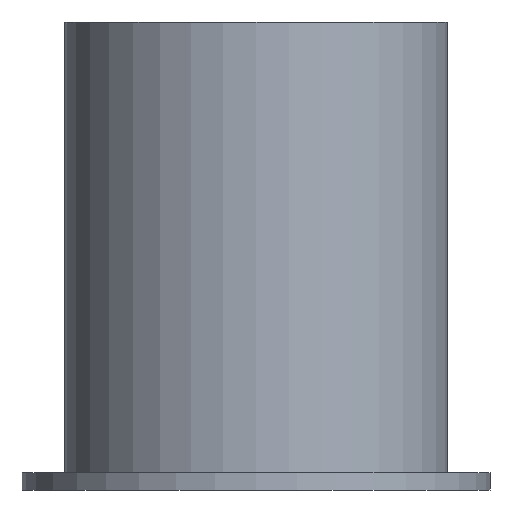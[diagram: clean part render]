
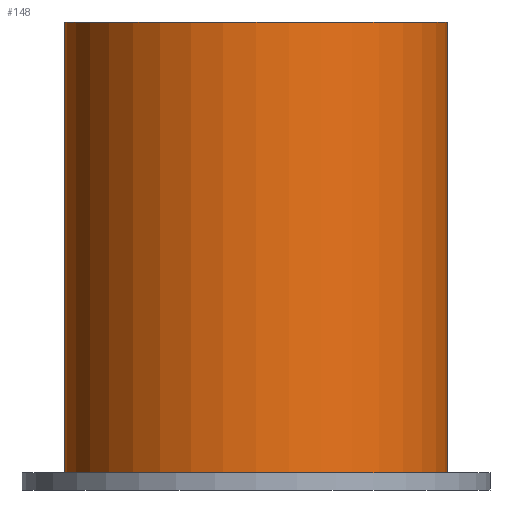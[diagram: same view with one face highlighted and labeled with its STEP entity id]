
A CAD part, front view. The second image highlights one B-rep face of the part: STEP entity #148.
In plain terms, the highlighted cylindrical face has radius 45 mm (diameter 90 mm), a full revolution.
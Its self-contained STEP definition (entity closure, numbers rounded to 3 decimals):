
#96 = PLANE('',#97);
#97 = AXIS2_PLACEMENT_3D('',#98,#99,#100);
#98 = CARTESIAN_POINT('',(0.,0.,4.));
#99 = DIRECTION('',(0.,0.,1.));
#100 = DIRECTION('',(1.,0.,-0.));
#116 = EDGE_CURVE('',#117,#117,#119,.T.);
#117 = VERTEX_POINT('',#118);
#118 = CARTESIAN_POINT('',(45.,0.,4.));
#119 = SURFACE_CURVE('',#120,(#125,#136),.PCURVE_S1.);
#120 = CIRCLE('',#121,45.);
#121 = AXIS2_PLACEMENT_3D('',#122,#123,#124);
#122 = CARTESIAN_POINT('',(0.,0.,4.));
#123 = DIRECTION('',(0.,0.,-1.));
#124 = DIRECTION('',(1.,0.,0.));
#125 = PCURVE('',#96,#126);
#126 = DEFINITIONAL_REPRESENTATION('',(#127),#135);
#127 = ( BOUNDED_CURVE() B_SPLINE_CURVE(2,(#128,#129,#130,#131,#132,#133
,#134),.UNSPECIFIED.,.T.,.F.) B_SPLINE_CURVE_WITH_KNOTS((1,2,2,2,2,1),(
    -2.094,0.,2.094,4.189,6.283,
8.378),.UNSPECIFIED.) CURVE() GEOMETRIC_REPRESENTATION_ITEM() 
RATIONAL_B_SPLINE_CURVE((1.,0.5,1.,0.5,1.,0.5,1.)) REPRESENTATION_ITEM(
  '') );
#128 = CARTESIAN_POINT('',(45.,0.));
#129 = CARTESIAN_POINT('',(45.,-77.942));
#130 = CARTESIAN_POINT('',(-22.5,-38.971));
#131 = CARTESIAN_POINT('',(-90.,0.));
#132 = CARTESIAN_POINT('',(-22.5,38.971));
#133 = CARTESIAN_POINT('',(45.,77.942));
#134 = CARTESIAN_POINT('',(45.,0.));
#135 = ( GEOMETRIC_REPRESENTATION_CONTEXT(2) 
PARAMETRIC_REPRESENTATION_CONTEXT() REPRESENTATION_CONTEXT('2D SPACE',''
  ) );
#136 = PCURVE('',#137,#142);
#137 = CYLINDRICAL_SURFACE('',#138,45.);
#138 = AXIS2_PLACEMENT_3D('',#139,#140,#141);
#139 = CARTESIAN_POINT('',(0.,0.,0.));
#140 = DIRECTION('',(-0.,-0.,-1.));
#141 = DIRECTION('',(1.,0.,0.));
#142 = DEFINITIONAL_REPRESENTATION('',(#143),#147);
#143 = LINE('',#144,#145);
#144 = CARTESIAN_POINT('',(-6.283,-4.));
#145 = VECTOR('',#146,1.);
#146 = DIRECTION('',(1.,-0.));
#147 = ( GEOMETRIC_REPRESENTATION_CONTEXT(2) 
PARAMETRIC_REPRESENTATION_CONTEXT() REPRESENTATION_CONTEXT('2D SPACE',''
  ) );
#148 = ADVANCED_FACE('',(#149),#137,.T.);
#149 = FACE_BOUND('',#150,.F.);
#150 = EDGE_LOOP('',(#151,#152,#175,#202));
#151 = ORIENTED_EDGE('',*,*,#116,.T.);
#152 = ORIENTED_EDGE('',*,*,#153,.T.);
#153 = EDGE_CURVE('',#117,#154,#156,.T.);
#154 = VERTEX_POINT('',#155);
#155 = CARTESIAN_POINT('',(45.,0.,110.));
#156 = SEAM_CURVE('',#157,(#161,#168),.PCURVE_S1.);
#157 = LINE('',#158,#159);
#158 = CARTESIAN_POINT('',(45.,0.,0.));
#159 = VECTOR('',#160,1.);
#160 = DIRECTION('',(0.,0.,1.));
#161 = PCURVE('',#137,#162);
#162 = DEFINITIONAL_REPRESENTATION('',(#163),#167);
#163 = LINE('',#164,#165);
#164 = CARTESIAN_POINT('',(-6.283,0.));
#165 = VECTOR('',#166,1.);
#166 = DIRECTION('',(-0.,-1.));
#167 = ( GEOMETRIC_REPRESENTATION_CONTEXT(2) 
PARAMETRIC_REPRESENTATION_CONTEXT() REPRESENTATION_CONTEXT('2D SPACE',''
  ) );
#168 = PCURVE('',#137,#169);
#169 = DEFINITIONAL_REPRESENTATION('',(#170),#174);
#170 = LINE('',#171,#172);
#171 = CARTESIAN_POINT('',(-0.,0.));
#172 = VECTOR('',#173,1.);
#173 = DIRECTION('',(-0.,-1.));
#174 = ( GEOMETRIC_REPRESENTATION_CONTEXT(2) 
PARAMETRIC_REPRESENTATION_CONTEXT() REPRESENTATION_CONTEXT('2D SPACE',''
  ) );
#175 = ORIENTED_EDGE('',*,*,#176,.T.);
#176 = EDGE_CURVE('',#154,#154,#177,.T.);
#177 = SURFACE_CURVE('',#178,(#183,#190),.PCURVE_S1.);
#178 = CIRCLE('',#179,45.);
#179 = AXIS2_PLACEMENT_3D('',#180,#181,#182);
#180 = CARTESIAN_POINT('',(0.,0.,110.));
#181 = DIRECTION('',(0.,0.,1.));
#182 = DIRECTION('',(1.,0.,0.));
#183 = PCURVE('',#137,#184);
#184 = DEFINITIONAL_REPRESENTATION('',(#185),#189);
#185 = LINE('',#186,#187);
#186 = CARTESIAN_POINT('',(-0.,-110.));
#187 = VECTOR('',#188,1.);
#188 = DIRECTION('',(-1.,0.));
#189 = ( GEOMETRIC_REPRESENTATION_CONTEXT(2) 
PARAMETRIC_REPRESENTATION_CONTEXT() REPRESENTATION_CONTEXT('2D SPACE',''
  ) );
#190 = PCURVE('',#191,#196);
#191 = PLANE('',#192);
#192 = AXIS2_PLACEMENT_3D('',#193,#194,#195);
#193 = CARTESIAN_POINT('',(0.,0.,110.));
#194 = DIRECTION('',(0.,0.,1.));
#195 = DIRECTION('',(1.,0.,-0.));
#196 = DEFINITIONAL_REPRESENTATION('',(#197),#201);
#197 = CIRCLE('',#198,45.);
#198 = AXIS2_PLACEMENT_2D('',#199,#200);
#199 = CARTESIAN_POINT('',(0.,0.));
#200 = DIRECTION('',(1.,0.));
#201 = ( GEOMETRIC_REPRESENTATION_CONTEXT(2) 
PARAMETRIC_REPRESENTATION_CONTEXT() REPRESENTATION_CONTEXT('2D SPACE',''
  ) );
#202 = ORIENTED_EDGE('',*,*,#153,.F.);
